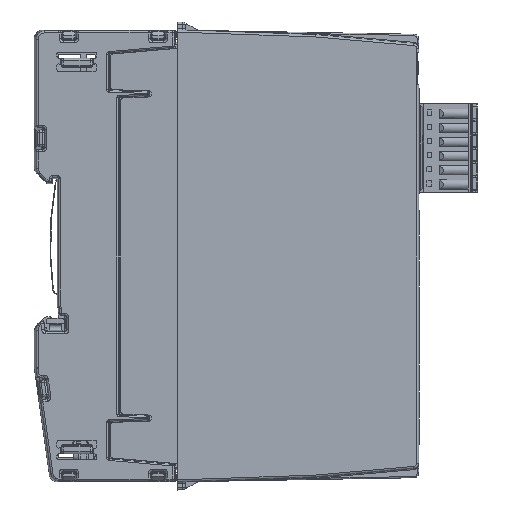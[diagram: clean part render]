
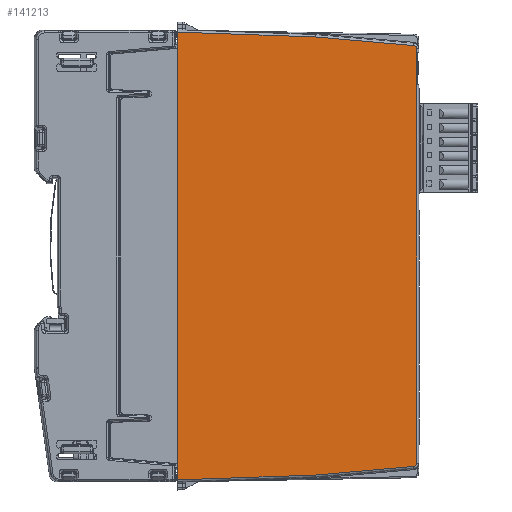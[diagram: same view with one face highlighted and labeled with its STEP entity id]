
A CAD part, left-side view. The second image highlights one B-rep face of the part: STEP entity #141213.
In plain terms, the highlighted planar face has unit normal (-1, -0.018, 0).
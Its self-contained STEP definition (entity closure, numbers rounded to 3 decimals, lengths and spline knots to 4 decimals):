
#12666=FACE_OUTER_BOUND('',#20310,.T.);
#20310=EDGE_LOOP('',(#114658,#114659,#114660,#114661,#114662,#114663,#114664,
#114665,#114666,#114667));
#33854=LINE('',#235278,#48314);
#34073=LINE('',#236353,#48533);
#34074=LINE('',#236355,#48534);
#34075=LINE('',#236359,#48535);
#34076=LINE('',#236362,#48536);
#34077=LINE('',#236364,#48537);
#34078=LINE('',#236366,#48538);
#34079=LINE('',#236367,#48539);
#48314=VECTOR('',#181234,39.3701);
#48533=VECTOR('',#181621,39.3701);
#48534=VECTOR('',#181622,39.3701);
#48535=VECTOR('',#181625,39.3701);
#48536=VECTOR('',#181628,39.3701);
#48537=VECTOR('',#181629,39.3701);
#48538=VECTOR('',#181630,39.3701);
#48539=VECTOR('',#181631,39.3701);
#52475=ELLIPSE('',#151121,0.0315,0.0315);
#52476=ELLIPSE('',#151122,0.0315,0.0315);
#62446=VERTEX_POINT('',#235276);
#62447=VERTEX_POINT('',#235277);
#62658=VERTEX_POINT('',#236351);
#62659=VERTEX_POINT('',#236352);
#62660=VERTEX_POINT('',#236354);
#62661=VERTEX_POINT('',#236356);
#62662=VERTEX_POINT('',#236358);
#62663=VERTEX_POINT('',#236360);
#62664=VERTEX_POINT('',#236363);
#62665=VERTEX_POINT('',#236365);
#80213=EDGE_CURVE('',#62446,#62447,#33854,.T.);
#80517=EDGE_CURVE('',#62658,#62659,#34073,.T.);
#80518=EDGE_CURVE('',#62659,#62660,#34074,.T.);
#80519=EDGE_CURVE('',#62660,#62661,#52475,.T.);
#80520=EDGE_CURVE('',#62661,#62662,#34075,.T.);
#80521=EDGE_CURVE('',#62662,#62663,#52476,.T.);
#80522=EDGE_CURVE('',#62663,#62446,#34076,.T.);
#80523=EDGE_CURVE('',#62447,#62664,#34077,.T.);
#80524=EDGE_CURVE('',#62665,#62664,#34078,.T.);
#80525=EDGE_CURVE('',#62665,#62658,#34079,.T.);
#114658=ORIENTED_EDGE('',*,*,#80517,.T.);
#114659=ORIENTED_EDGE('',*,*,#80518,.T.);
#114660=ORIENTED_EDGE('',*,*,#80519,.T.);
#114661=ORIENTED_EDGE('',*,*,#80520,.T.);
#114662=ORIENTED_EDGE('',*,*,#80521,.T.);
#114663=ORIENTED_EDGE('',*,*,#80522,.T.);
#114664=ORIENTED_EDGE('',*,*,#80213,.T.);
#114665=ORIENTED_EDGE('',*,*,#80523,.T.);
#114666=ORIENTED_EDGE('',*,*,#80524,.F.);
#114667=ORIENTED_EDGE('',*,*,#80525,.T.);
#127535=PLANE('',#151120);
#141213=ADVANCED_FACE('',(#12666),#127535,.T.);
#151120=AXIS2_PLACEMENT_3D('',#236350,#181619,#181620);
#151121=AXIS2_PLACEMENT_3D('',#236357,#181623,#181624);
#151122=AXIS2_PLACEMENT_3D('',#236361,#181626,#181627);
#181234=DIRECTION('',(-0.017,0.999,0.035));
#181619=DIRECTION('center_axis',(-1.,-0.017,
0.));
#181620=DIRECTION('ref_axis',(-0.017,1.,0.));
#181621=DIRECTION('',(0.017,-0.999,0.035));
#181622=DIRECTION('',(0.017,-0.996,0.087));
#181623=DIRECTION('center_axis',(-1.,-0.017,
0.));
#181624=DIRECTION('ref_axis',(0.017,-1.,0.));
#181625=DIRECTION('',(0.,0.,1.));
#181626=DIRECTION('center_axis',(-1.,-0.017,
0.));
#181627=DIRECTION('ref_axis',(0.017,-1.,0.));
#181628=DIRECTION('',(-0.017,0.996,0.087));
#181629=DIRECTION('',(0.,0.,-1.));
#181630=DIRECTION('',(0.,0.,1.));
#181631=DIRECTION('',(0.,0.,-1.));
#235276=CARTESIAN_POINT('',(0.0007,-2.2205,0.0616));
#235277=CARTESIAN_POINT('',(-0.0227,-0.8827,0.1083));
#235278=CARTESIAN_POINT('',(-0.0282,-0.5654,0.1194));
#236350=CARTESIAN_POINT('Origin',(-0.0296,-0.489,
-2.0669));
#236351=CARTESIAN_POINT('',(-0.0227,-0.8827,-4.2421));
#236352=CARTESIAN_POINT('',(0.0007,-2.2205,-4.1954));
#236353=CARTESIAN_POINT('',(-0.0282,-0.5654,-4.2532));
#236354=CARTESIAN_POINT('',(0.0174,-3.1772,-4.1117));
#236355=CARTESIAN_POINT('',(-0.0261,-0.6869,-4.3296));
#236356=CARTESIAN_POINT('',(0.0179,-3.2059,-4.0803));
#236357=CARTESIAN_POINT('Origin',(0.0173,-3.1744,
-4.0803));
#236358=CARTESIAN_POINT('',(0.0179,-3.2059,-0.0535));
#236359=CARTESIAN_POINT('',(0.0179,-3.2059,-0.0535));
#236360=CARTESIAN_POINT('',(0.0174,-3.1772,-0.0221));
#236361=CARTESIAN_POINT('Origin',(0.0173,-3.1744,
-0.0535));
#236362=CARTESIAN_POINT('',(-0.0261,-0.6869,0.1957));
#236363=CARTESIAN_POINT('',(-0.0227,-0.8827,-0.0312));
#236364=CARTESIAN_POINT('',(-0.0227,-0.8827,0.128));
#236365=CARTESIAN_POINT('',(-0.0227,-0.8827,-4.1027));
#236366=CARTESIAN_POINT('',(-0.0227,-0.8827,-7.5932));
#236367=CARTESIAN_POINT('',(-0.0227,-0.8827,0.128));
